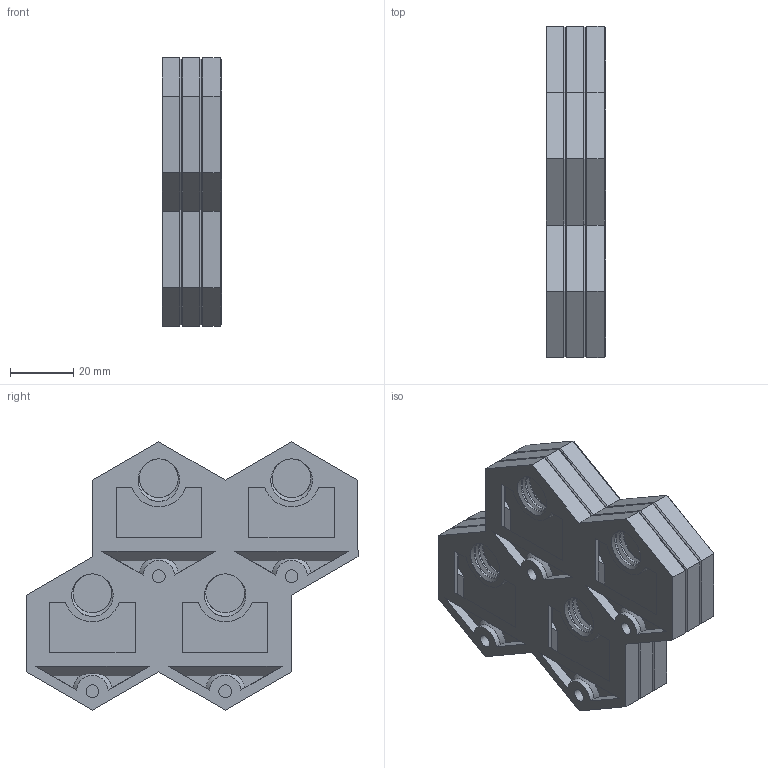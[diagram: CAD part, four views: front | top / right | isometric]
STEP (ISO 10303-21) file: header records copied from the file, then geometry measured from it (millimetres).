
FILE_DESCRIPTION(/* description */ ('','CAx-IF Rec.Pracs.---Representation and Presentation of Product Manufacturing Information (PMI)---4.0---2014-10-13'),/* implementation_level */ '2;1');
FILE_NAME(/* name */ 'GOEWS 2x2 Tile Stack with 0.4mm Spacer.step',/* time_stamp */ '2024-11-29T15:42:02-05:00',/* author */ (''),/* organization */ (''),/* preprocessor_version */ 'ST-DEVELOPER v20',/* originating_system */ 'Autodesk Translation Framework v13.20.0.188',/* authorisation */ '');
FILE_SCHEMA (('AP242_MANAGED_MODEL_BASED_3D_ENGINEERING_MIM_LF { 1 0 10303 442 1 1 4 }'));
Length unit declared in the file: millimetre
Products named in the file (1): GOEWS Parametric Tile Stack with Spacer
Bounding box: 18.8 x 105 x 84.87 mm (x, y, z)
Volume: 59828 mm3; surface area: 68939.7 mm2
Topology: 5 solids, 5 shells, 689 faces, 1863 edges, 1196 vertices
Faces by surface type: plane 485, cylinder 144, cone 36, bspline 24
Full cylindrical faces by diameter (mm): 4 x12, 8 x12, 12.322 x24, 14.55 x24
Entity records: 35393 total; most frequent: CARTESIAN_POINT 18509, ORIENTED_EDGE 3726, DIRECTION 3075, EDGE_CURVE 1863, LINE 1359, VECTOR 1359, VERTEX_POINT 1196, AXIS2_PLACEMENT_3D 858
